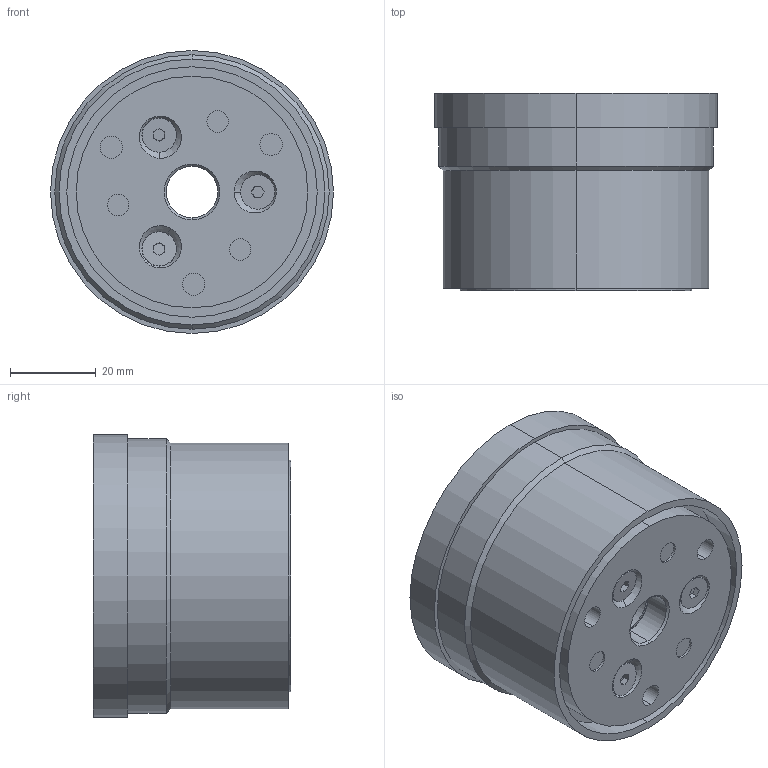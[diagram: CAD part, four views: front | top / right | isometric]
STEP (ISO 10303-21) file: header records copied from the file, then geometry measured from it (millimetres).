
FILE_DESCRIPTION (( 'STEP AP203' ), '1' );
FILE_NAME ('SMT.BS.050.054.STEP', '2023-04-06T09:37:17', ( '' ), ( '' ), 'SwSTEP 2.0', 'SolidWorks 2020', '' );
FILE_SCHEMA (( 'CONFIG_CONTROL_DESIGN' ));
Length unit declared in the file: millimetre
Products named in the file (1): SMT.BS.050.054
Bounding box: 66 x 46 x 66 mm (x, y, z)
Volume: 134159.8 mm3; surface area: 22774.9 mm2
Topology: 1 solids, 20 shells, 432 faces, 931 edges, 559 vertices
Faces by surface type: plane 186, cylinder 142, cone 88, bspline 16
Entity records: 11773 total; most frequent: CARTESIAN_POINT 2235, DIRECTION 2114, ORIENTED_EDGE 1814, EDGE_CURVE 907, AXIS2_PLACEMENT_3D 821, VERTEX_POINT 559, EDGE_LOOP 500, VECTOR 472
